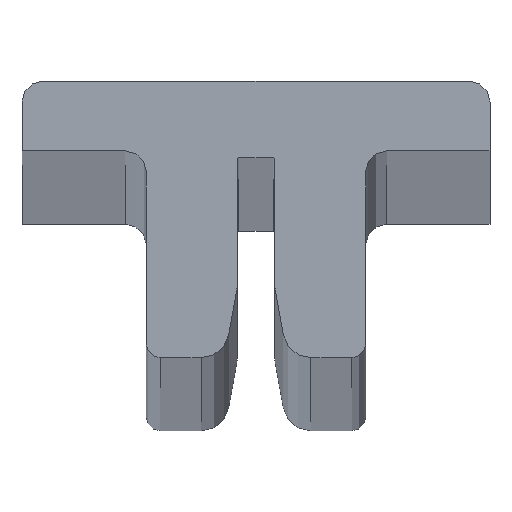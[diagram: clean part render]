
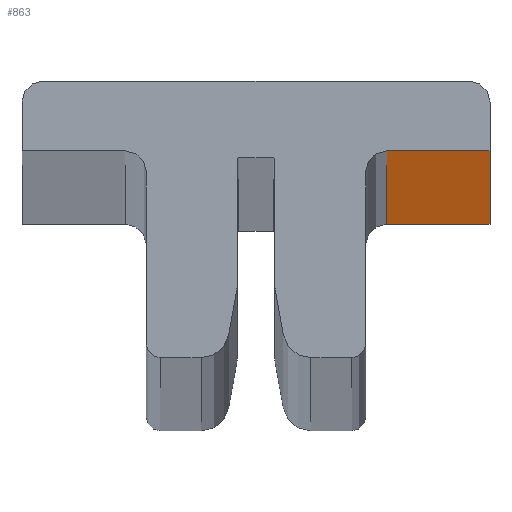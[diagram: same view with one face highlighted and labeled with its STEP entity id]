
A CAD part, top view. The second image highlights one B-rep face of the part: STEP entity #863.
In plain terms, the highlighted planar face has unit normal (0, -1, 0).
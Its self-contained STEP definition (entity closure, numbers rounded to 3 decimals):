
#5 = FACE_OUTER_BOUND ( 'NONE', #509, .T. ) ;
#11 = DIRECTION ( 'NONE',  ( 0., 0., 1. ) ) ;
#12 = VECTOR ( 'NONE', #581, 1000. ) ;
#92 = VERTEX_POINT ( 'NONE', #915 ) ;
#123 = EDGE_CURVE ( 'NONE', #516, #433, #262, .T. ) ;
#145 = CARTESIAN_POINT ( 'NONE',  ( 16.75, 14.8, 3000. ) ) ;
#187 = DIRECTION ( 'NONE',  ( 1., 0., 0. ) ) ;
#208 = ORIENTED_EDGE ( 'NONE', *, *, #123, .T. ) ;
#224 = CARTESIAN_POINT ( 'NONE',  ( 16.75, 14.8, 3000. ) ) ;
#262 = LINE ( 'NONE', #548, #944 ) ;
#282 = CARTESIAN_POINT ( 'NONE',  ( 9.35, 14.8, 0. ) ) ;
#305 = VECTOR ( 'NONE', #663, 1000. ) ;
#408 = EDGE_CURVE ( 'NONE', #892, #433, #893, .T. ) ;
#433 = VERTEX_POINT ( 'NONE', #734 ) ;
#462 = EDGE_CURVE ( 'NONE', #92, #892, #598, .T. ) ;
#472 = VECTOR ( 'NONE', #751, 1000. ) ;
#508 = ORIENTED_EDGE ( 'NONE', *, *, #462, .F. ) ;
#509 = EDGE_LOOP ( 'NONE', ( #508, #707, #208, #534 ) ) ;
#516 = VERTEX_POINT ( 'NONE', #747 ) ;
#534 = ORIENTED_EDGE ( 'NONE', *, *, #408, .F. ) ;
#548 = CARTESIAN_POINT ( 'NONE',  ( 16.75, 14.8, 0. ) ) ;
#581 = DIRECTION ( 'NONE',  ( 0., 0., -1. ) ) ;
#598 = LINE ( 'NONE', #224, #305 ) ;
#663 = DIRECTION ( 'NONE',  ( 1., 0., 0. ) ) ;
#672 = CARTESIAN_POINT ( 'NONE',  ( 16.75, 14.8, 3000. ) ) ;
#707 = ORIENTED_EDGE ( 'NONE', *, *, #757, .T. ) ;
#734 = CARTESIAN_POINT ( 'NONE',  ( 16.75, 14.8, 0. ) ) ;
#747 = CARTESIAN_POINT ( 'NONE',  ( 9.35, 14.8, 0. ) ) ;
#751 = DIRECTION ( 'NONE',  ( 0., 0., -1. ) ) ;
#757 = EDGE_CURVE ( 'NONE', #92, #516, #938, .T. ) ;
#808 = DIRECTION ( 'NONE',  ( 0., 1., 0. ) ) ;
#823 = CARTESIAN_POINT ( 'NONE',  ( 16.75, 14.8, 3000. ) ) ;
#863 = ADVANCED_FACE ( 'NONE', ( #5 ), #877, .F. ) ;
#877 = PLANE ( 'NONE',  #913 ) ;
#892 = VERTEX_POINT ( 'NONE', #145 ) ;
#893 = LINE ( 'NONE', #823, #472 ) ;
#913 = AXIS2_PLACEMENT_3D ( 'NONE', #672, #808, #11 ) ;
#915 = CARTESIAN_POINT ( 'NONE',  ( 9.35, 14.8, 3000. ) ) ;
#938 = LINE ( 'NONE', #282, #12 ) ;
#944 = VECTOR ( 'NONE', #187, 1000. ) ;
